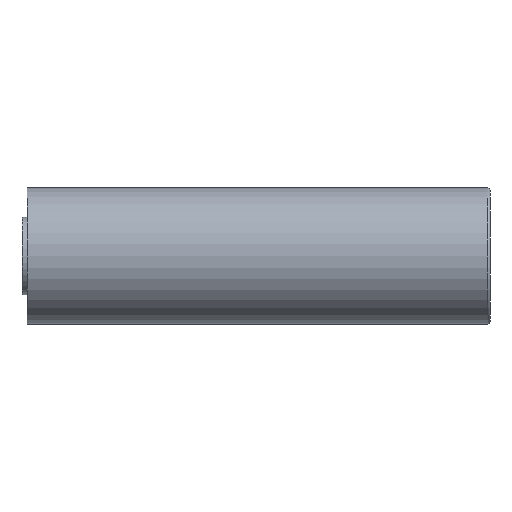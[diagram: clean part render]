
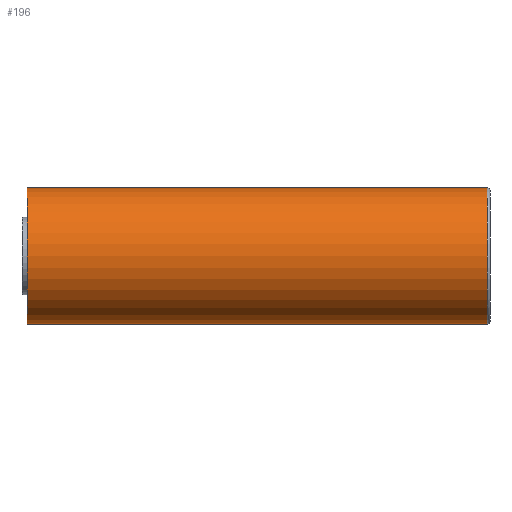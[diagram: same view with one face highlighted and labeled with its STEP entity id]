
A CAD part, front view. The second image highlights one B-rep face of the part: STEP entity #196.
In plain terms, the highlighted cylindrical face has radius 2.5 mm (diameter 5 mm), a full revolution.
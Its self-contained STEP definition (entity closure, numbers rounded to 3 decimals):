
#196 = ADVANCED_FACE( '', ( #461, #462 ), #463, .T. );
#461 = FACE_OUTER_BOUND( '', #941, .T. );
#462 = FACE_OUTER_BOUND( '', #942, .T. );
#463 = CYLINDRICAL_SURFACE( '', #943, 2.5 );
#941 = EDGE_LOOP( '', ( #1690 ) );
#942 = EDGE_LOOP( '', ( #1691 ) );
#943 = AXIS2_PLACEMENT_3D( '', #1692, #1693, #1694 );
#1690 = ORIENTED_EDGE( '', *, *, #3208, .T. );
#1691 = ORIENTED_EDGE( '', *, *, #3302, .F. );
#1692 = CARTESIAN_POINT( '', ( 16.05, 0., 0. ) );
#1693 = DIRECTION( '', ( -1., 0., 0. ) );
#1694 = DIRECTION( '', ( 0., 0., -1. ) );
#3208 = EDGE_CURVE( '', #3859, #3859, #3860, .T. );
#3302 = EDGE_CURVE( '', #4027, #4027, #4028, .T. );
#3859 = VERTEX_POINT( '', #4834 );
#3860 = CIRCLE( '', #4835, 2.5 );
#4027 = VERTEX_POINT( '', #5079 );
#4028 = CIRCLE( '', #5080, 2.5 );
#4834 = CARTESIAN_POINT( '', ( -0.95, 0., -2.5 ) );
#4835 = AXIS2_PLACEMENT_3D( '', #6068, #6069, #6070 );
#5079 = CARTESIAN_POINT( '', ( 15.95, 0., -2.5 ) );
#5080 = AXIS2_PLACEMENT_3D( '', #6196, #6197, #6198 );
#6068 = CARTESIAN_POINT( '', ( -0.95, 0., 0. ) );
#6069 = DIRECTION( '', ( 1., 0., 0. ) );
#6070 = DIRECTION( '', ( 0., 0., -1. ) );
#6196 = CARTESIAN_POINT( '', ( 15.95, 0., 0. ) );
#6197 = DIRECTION( '', ( 1., 0., 0. ) );
#6198 = DIRECTION( '', ( 0., 0., -1. ) );
